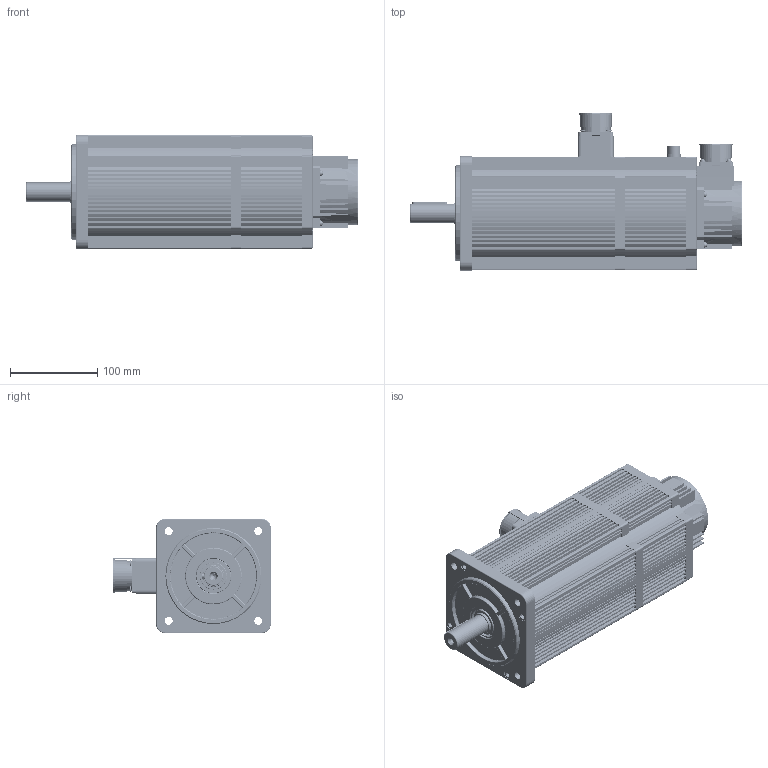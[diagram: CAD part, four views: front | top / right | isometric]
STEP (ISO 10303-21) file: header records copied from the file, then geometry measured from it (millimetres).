
FILE_DESCRIPTION (( 'STEP AP203' ), '1' );
FILE_NAME ('K1-130蚾饜 15Nm 1500Rpm 惕掅.STEP', '2020-01-11T05:11:05', ( 'gs' ), ( 'Microsoft' ), 'SwSTEP 2.0', 'SolidWorks 2019', '' );
FILE_SCHEMA (( 'CONFIG_CONTROL_DESIGN' ));
Length unit declared in the file: millimetre
Products named in the file (27): K1-130密封圈; M3X12啋儂; K1-130瑤脣雄薯盄; K1-130蚾饜 15Nm 1500Rpm 惕掅; K1-130誘欶躇猾菜; M3す菜; K1-130机壳加工后 抱闸 10Nm以上; K1-130儂褲樓馱綴 15Nm 1500Rpm; curved single coil spring lock washers gb_GB_FASTENER_WASHER_CSLW 4; K1-130す瑩; K1-130綴傷裔 陬諾; K1-130隅赽郪璃 15Nm 1500Rpm; M6粟菜; K1-130瑤脣砎蝶菜; K1-130粣 惕掅 15Nm 1500Rpm; K1-130ヶ傷裔 譙跡; M6X20; K1-130諉盄釱; K1-130蛌赽郪璃 15Nm 1500Rpm 惕掅; K1-130綴傷裔 惕掅(10Nm眕奻); K1-130盄簽砎蝶菜; M3X8啋儂; K1-130瑤脣 惕掅(10Nm眕奻); K1-110晤鎢ん誘欶; K1-130瑤脣15郋; M4X16啋儂; M6X100
Assembly tree (73 placements, depth 3):
  K1-130蚾饜 15Nm 1500Rpm 惕掅
    K1-130隅赽郪璃 15Nm 1500Rpm
      K1-130儂褲樓馱綴 15Nm 1500Rpm
    K1-130ヶ傷裔 譙跡
    K1-130綴傷裔 惕掅(10Nm眕奻)
    K1-110晤鎢ん誘欶
    K1-130密封圈
    K1-130誘欶躇猾菜
    curved single coil spring lock washers gb_GB_FASTENER_WASHER_CSLW 4  x18
    M6粟菜  x8
    M6X20  x4
    K1-130盄簽砎蝶菜  x2
    K1-130瑤脣15郋
    M3X12啋儂  x4
    M3す菜  x8
    K1-130す瑩
    K1-130瑤脣砎蝶菜
    K1-130諉盄釱
    M3X8啋儂  x4
    M4X16啋儂  x4
    K1-130瑤脣雄薯盄
    K1-130机壳加工后 抱闸 10Nm以上
    K1-130綴傷裔 陬諾
    K1-130蛌赽郪璃 15Nm 1500Rpm 惕掅
      K1-130粣 惕掅 15Nm 1500Rpm
    K1-130瑤脣 惕掅(10Nm眕奻)
    M6X100  x4
Bounding box: 380 x 180.1 x 131 mm (x, y, z)
Volume: 1358175.2 mm3; surface area: 671584.2 mm2
Topology: 73 solids, 75 shells, 3929 faces, 10642 edges, 6999 vertices
Faces by surface type: cylinder 2238, plane 1388, bspline 146, cone 95, torus 62
Entity records: 142881 total; most frequent: CARTESIAN_POINT 74204, ORIENTED_EDGE 14742, DIRECTION 12315, EDGE_CURVE 7371, VERTEX_POINT 4840, AXIS2_PLACEMENT_3D 4208, LINE 3899, VECTOR 3899
